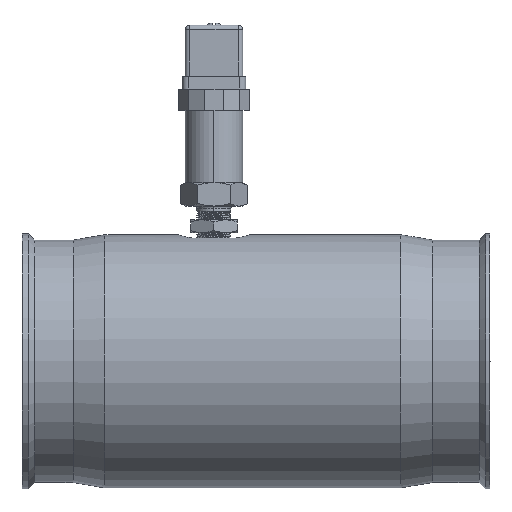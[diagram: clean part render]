
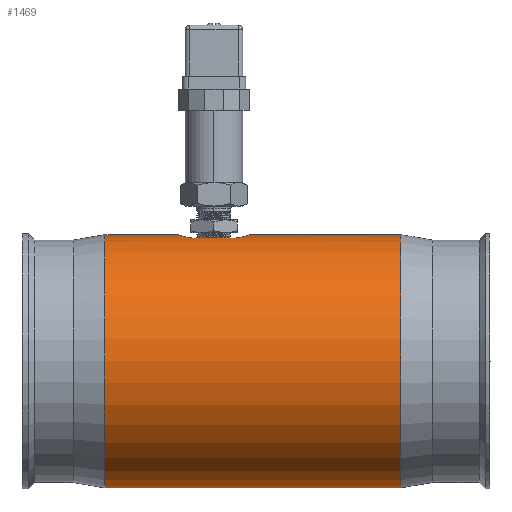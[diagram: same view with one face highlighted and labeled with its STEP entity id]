
A CAD part, left-side view. The second image highlights one B-rep face of the part: STEP entity #1469.
In plain terms, the highlighted cylindrical face has radius 59.5 mm (diameter 119 mm), a full revolution.
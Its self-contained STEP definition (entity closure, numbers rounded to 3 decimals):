
#332=B_SPLINE_CURVE_WITH_KNOTS('',3,(#17722,#17723,#17724,#17725,#17726,
#17727,#17728,#17729,#17730,#17731),.UNSPECIFIED.,.F.,.F.,(4,2,2,2,4),(0.,
0.25,0.5,0.75,1.),.UNSPECIFIED.);
#333=B_SPLINE_CURVE_WITH_KNOTS('',3,(#17784,#17785,#17786,#17787,#17788,
#17789,#17790,#17791,#17792,#17793),.UNSPECIFIED.,.F.,.F.,(4,2,2,2,4),(0.,
0.25,0.5,0.75,1.),.UNSPECIFIED.);
#562=CYLINDRICAL_SURFACE('',#9486,59.5);
#1469=ADVANCED_FACE('',(#2150,#2151,#2152),#562,.T.);
#2037=CIRCLE('',#9483,59.5);
#2038=CIRCLE('',#9485,59.5);
#2150=FACE_BOUND('',#2697,.T.);
#2151=FACE_BOUND('',#2698,.T.);
#2152=FACE_BOUND('',#2699,.T.);
#2697=EDGE_LOOP('',(#5208,#5209,#5210,#5211));
#2698=EDGE_LOOP('',(#5212));
#2699=EDGE_LOOP('',(#5213));
#5208=ORIENTED_EDGE('',*,*,#7317,.T.);
#5209=ORIENTED_EDGE('',*,*,#7294,.F.);
#5210=ORIENTED_EDGE('',*,*,#7318,.T.);
#5211=ORIENTED_EDGE('',*,*,#7296,.F.);
#5212=ORIENTED_EDGE('',*,*,#7320,.T.);
#5213=ORIENTED_EDGE('',*,*,#7319,.T.);
#6038=VERTEX_POINT('',#17652);
#6039=VERTEX_POINT('',#17653);
#6040=VERTEX_POINT('',#17655);
#6041=VERTEX_POINT('',#17660);
#6062=VERTEX_POINT('',#17847);
#6063=VERTEX_POINT('',#17850);
#7294=EDGE_CURVE('',#6039,#6040,#8042,.T.);
#7296=EDGE_CURVE('',#6041,#6038,#8043,.T.);
#7317=EDGE_CURVE('',#6041,#6040,#332,.T.);
#7318=EDGE_CURVE('',#6039,#6038,#333,.T.);
#7319=EDGE_CURVE('',#6062,#6062,#2037,.T.);
#7320=EDGE_CURVE('',#6063,#6063,#2038,.T.);
#8042=LINE('',#17654,#8761);
#8043=LINE('',#17661,#8762);
#8761=VECTOR('',#11574,1.);
#8762=VECTOR('',#11575,1.);
#9483=AXIS2_PLACEMENT_3D('',#17846,#11656,#11657);
#9485=AXIS2_PLACEMENT_3D('',#17849,#11660,#11661);
#9486=AXIS2_PLACEMENT_3D('',#17851,#11662,#11663);
#11574=DIRECTION('',(0.,1.,0.));
#11575=DIRECTION('',(0.,-1.,0.));
#11656=DIRECTION('',(0.,1.,0.));
#11657=DIRECTION('',(0.,0.,-1.));
#11660=DIRECTION('',(0.,-1.,0.));
#11661=DIRECTION('',(0.,0.,1.));
#11662=DIRECTION('',(0.,-1.,0.));
#11663=DIRECTION('',(0.,0.,1.));
#17652=CARTESIAN_POINT('',(11.795,26.141,-96.6));
#17653=CARTESIAN_POINT('',(39.205,26.14,-96.6));
#17654=CARTESIAN_POINT('',(39.205,22.269,-96.6));
#17655=CARTESIAN_POINT('',(39.205,46.658,-96.6));
#17660=CARTESIAN_POINT('',(11.795,46.659,-96.6));
#17661=CARTESIAN_POINT('',(11.795,-879.758,-96.6));
#17722=CARTESIAN_POINT('',(11.795,46.659,-96.6));
#17723=CARTESIAN_POINT('',(13.401,48.753,-96.22));
#17724=CARTESIAN_POINT('',(15.493,50.45,-95.799));
#17725=CARTESIAN_POINT('',(20.2,52.757,-95.189));
#17726=CARTESIAN_POINT('',(22.852,53.373,-95.));
#17727=CARTESIAN_POINT('',(28.13,53.375,-95.));
#17728=CARTESIAN_POINT('',(30.773,52.77,-95.185));
#17729=CARTESIAN_POINT('',(35.536,50.438,-95.803));
#17730=CARTESIAN_POINT('',(37.615,48.734,-96.223));
#17731=CARTESIAN_POINT('',(39.205,46.658,-96.6));
#17784=CARTESIAN_POINT('',(39.205,26.14,-96.6));
#17785=CARTESIAN_POINT('',(37.601,24.049,-96.22));
#17786=CARTESIAN_POINT('',(35.514,22.354,-95.801));
#17787=CARTESIAN_POINT('',(30.808,20.047,-95.19));
#17788=CARTESIAN_POINT('',(28.162,19.428,-95.));
#17789=CARTESIAN_POINT('',(22.852,19.424,-95.));
#17790=CARTESIAN_POINT('',(20.2,20.041,-95.189));
#17791=CARTESIAN_POINT('',(15.469,22.364,-95.803));
#17792=CARTESIAN_POINT('',(13.385,24.068,-96.223));
#17793=CARTESIAN_POINT('',(11.795,26.141,-96.6));
#17846=CARTESIAN_POINT('',(25.5,-51.358,-154.5));
#17847=CARTESIAN_POINT('',(25.5,-51.358,-214.));
#17849=CARTESIAN_POINT('',(25.5,87.642,-154.5));
#17850=CARTESIAN_POINT('',(25.5,87.642,-95.));
#17851=CARTESIAN_POINT('',(25.5,-879.758,-154.5));
